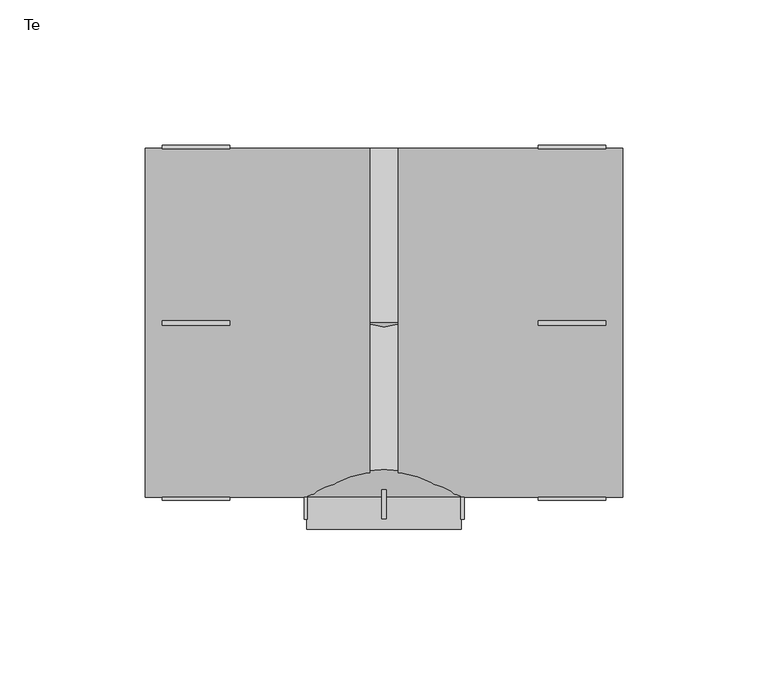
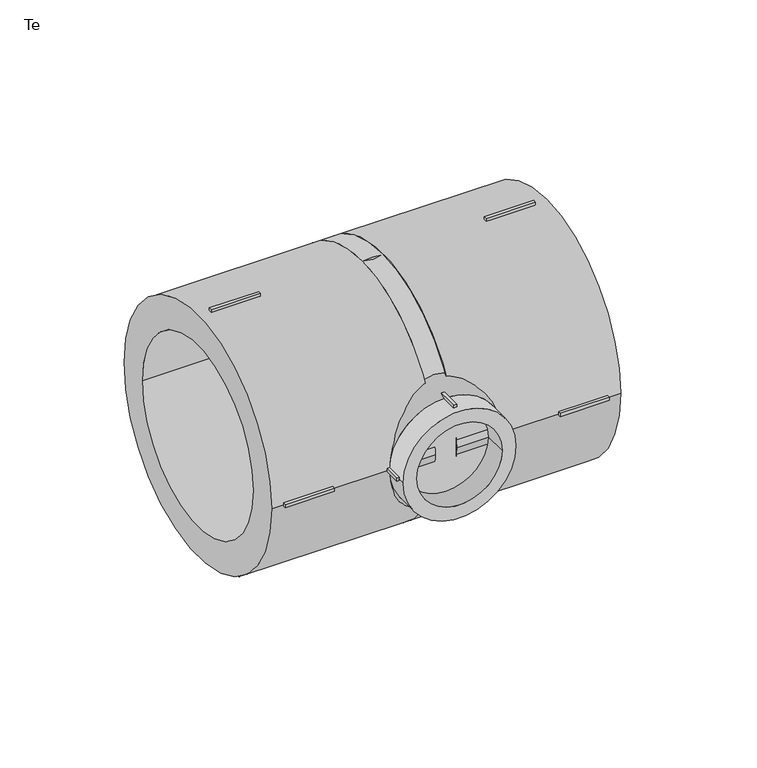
"""IFC4 building model written with IfcOpenShell, lengths in millimetres: pipe fitting geometry, EGB_VASEN_ PPR_Te WXR300_Te reducida WXR310 : Te."""

from ifc_helpers import new_model, si_unit, point, frame, origin, origin_2d, place, context, project, spatial, polyline, circle_curve, trimmed, segment, composite_curve, outline, extrude, source, transform, mapped, element, save
from ifc_brep_helpers import plane_surface, revolved_surface, advanced_brep


def te_8f591f91(model_context):
    return source(origin(), model_context, "Body", "SolidModel", [
        extrude(outline(polyline([(-0.75, -53.0), (0.75, -53.0), (0.75, -67.4), (-0.75, -67.4), (-0.75, -53.0)])), frame((0.0, 0.0, 25.5), z_axis=(0.0, 0.0, 1.0), x_axis=(1.0, 0.0, 0.0)), (0.0, 0.0, 1.0), 2.0),
        extrude(outline(polyline([(-0.75, -53.0), (0.75, -53.0), (0.75, -67.4), (-0.75, -67.4), (-0.75, -53.0)])), frame((0.0, 0.0, -27.5), z_axis=(0.0, 0.0, 1.0), x_axis=(1.0, 0.0, 0.0)), (0.0, 0.0, 1.0), 2.0),
        extrude(outline(polyline([(25.5, -53.0), (27.5, -53.0), (27.5, -67.4), (25.5, -67.4), (25.5, -53.0)])), frame((0.0, 0.0, -0.75), z_axis=(0.0, 0.0, 1.0), x_axis=(1.0, 0.0, 0.0)), (0.0, 0.0, 1.0), 1.5),
        extrude(outline(polyline([(-27.5, -53.0), (-25.5, -53.0), (-25.5, -67.4), (-27.5, -67.4), (-27.5, -53.0)])), frame((0.0, 0.0, -0.75), z_axis=(0.0, 0.0, 1.0), x_axis=(1.0, 0.0, 0.0)), (0.0, 0.0, 1.0), 1.5),
        extrude(outline(polyline([(53.0, -0.75), (53.0, 0.75), (76.2, 0.75), (76.2, -0.75), (53.0, -0.75)])), frame((0.0, 0.0, 59.0), z_axis=(0.0, 0.0, 1.0), x_axis=(1.0, 0.0, 0.0)), (0.0, 0.0, 1.0), 2.0),
        extrude(outline(polyline([(53.0, -0.75), (53.0, 0.75), (76.2, 0.75), (76.2, -0.75), (53.0, -0.75)])), frame((0.0, 0.0, -61.0), z_axis=(0.0, 0.0, 1.0), x_axis=(1.0, 0.0, 0.0)), (0.0, 0.0, 1.0), 2.0),
        extrude(outline(polyline([(53.0, 59.0), (53.0, 61.0), (76.2, 61.0), (76.2, 59.0), (53.0, 59.0)])), frame((0.0, 0.0, -0.75), z_axis=(0.0, 0.0, 1.0), x_axis=(1.0, 0.0, 0.0)), (0.0, 0.0, 1.0), 1.5),
        extrude(outline(polyline([(53.0, -61.0), (53.0, -59.0), (76.2, -59.0), (76.2, -61.0), (53.0, -61.0)])), frame((0.0, 0.0, -0.75), z_axis=(0.0, 0.0, 1.0), x_axis=(1.0, 0.0, 0.0)), (0.0, 0.0, 1.0), 1.5),
        extrude(outline(polyline([(-53.0, 0.75), (-53.0, -0.75), (-76.2, -0.75), (-76.2, 0.75), (-53.0, 0.75)])), frame((0.0, 0.0, 59.0), z_axis=(0.0, 0.0, 1.0), x_axis=(1.0, 0.0, 0.0)), (0.0, 0.0, 1.0), 2.0),
        extrude(outline(polyline([(-53.0, 0.75), (-53.0, -0.75), (-76.2, -0.75), (-76.2, 0.75), (-53.0, 0.75)])), frame((0.0, 0.0, -61.0), z_axis=(0.0, 0.0, 1.0), x_axis=(1.0, 0.0, 0.0)), (0.0, 0.0, 1.0), 2.0),
        extrude(outline(polyline([(-53.0, 61.0), (-53.0, 59.0), (-76.2, 59.0), (-76.2, 61.0), (-53.0, 61.0)])), frame((0.0, 0.0, -0.75), z_axis=(0.0, 0.0, 1.0), x_axis=(1.0, 0.0, 0.0)), (0.0, 0.0, 1.0), 1.5),
        extrude(outline(polyline([(-53.0, -59.0), (-53.0, -61.0), (-76.2, -61.0), (-76.2, -59.0), (-53.0, -59.0)])), frame((0.0, 0.0, -0.75), z_axis=(0.0, 0.0, 1.0), x_axis=(1.0, 0.0, 0.0)), (0.0, 0.0, 1.0), 1.5),
        extrude(outline(composite_curve([segment(trimmed(circle_curve(origin_2d(), 26.5), [point((0.0, 26.5))], [point((0.0, -26.5))], False, "CARTESIAN"), True, "CONTINUOUS"), segment(trimmed(circle_curve(origin_2d(), 26.5), [point((0.0, -26.5))], [point((0.0, 26.5))], False, "CARTESIAN"), True, "CONTINUOUS")], self_intersect=False), holes=[composite_curve([segment(trimmed(circle_curve(origin_2d(), 20.0), [point((0.0, 20.0))], [point((0.0, -20.0))], True, "CARTESIAN"), True, "CONTINUOUS"), segment(trimmed(circle_curve(origin_2d(), 20.0), [point((0.0, -20.0))], [point((0.0, 20.0))], True, "CARTESIAN"), True, "CONTINUOUS")], self_intersect=False)]), frame((0.0, -71.0, 0.0), z_axis=(0.0, 1.0, 0.0), x_axis=(0.0, 0.0, 1.0)), (0.0, 0.0, 1.0), 11.0),
        extrude(outline(composite_curve([segment(trimmed(circle_curve(origin_2d(), 60.0), [point((-60.0, 0.0))], [point((60.0, 0.0))], False, "CARTESIAN"), True, "CONTINUOUS"), segment(trimmed(circle_curve(origin_2d(), 60.0), [point((60.0, 0.0))], [point((-60.0, 0.0))], False, "CARTESIAN"), True, "CONTINUOUS")], self_intersect=False), holes=[composite_curve([segment(trimmed(circle_curve(origin_2d(), 45.0), [point((-45.0, 0.0))], [point((45.0, 0.0))], True, "CARTESIAN"), True, "CONTINUOUS"), segment(trimmed(circle_curve(origin_2d(), 45.0), [point((45.0, 0.0))], [point((-45.0, 0.0))], True, "CARTESIAN"), True, "CONTINUOUS")], self_intersect=False)]), frame((4.96, 0.0, 0.0), z_axis=(1.0, 0.0, 0.0), x_axis=(0.0, 1.0, 0.0)), (0.0, 0.0, 1.0), 77.04),
        extrude(outline(composite_curve([segment(trimmed(circle_curve(origin_2d(), 60.0), [point((-60.0, 0.0))], [point((60.0, 0.0))], False, "CARTESIAN"), True, "CONTINUOUS"), segment(trimmed(circle_curve(origin_2d(), 60.0), [point((60.0, 0.0))], [point((-60.0, 0.0))], False, "CARTESIAN"), True, "CONTINUOUS")], self_intersect=False), holes=[composite_curve([segment(trimmed(circle_curve(origin_2d(), 45.0), [point((-45.0, 0.0))], [point((45.0, 0.0))], True, "CARTESIAN"), True, "CONTINUOUS"), segment(trimmed(circle_curve(origin_2d(), 45.0), [point((45.0, 0.0))], [point((-45.0, 0.0))], True, "CARTESIAN"), True, "CONTINUOUS")], self_intersect=False)]), frame((-82.0, 0.0, 0.0), z_axis=(1.0, 0.0, 0.0), x_axis=(0.0, 1.0, 0.0)), (0.0, 0.0, 1.0), 77.04),
        advanced_brep(
        [(60.0, 0.0, 0.0), (-60.0, 0.0, 0.0), (26.5, -60.0, 0.0), (-26.5, -60.0, 0.0)],
        [
            (0, 1, circle_curve(frame((0.0, 0.0, 0.0), z_axis=(0.0, 1.0, 0.0), x_axis=(1.0, 0.0, 0.0)), 60.0)),
            (1, 0, circle_curve(frame((0.0, 0.0, 0.0), z_axis=(0.0, 1.0, 0.0), x_axis=(-1.0, 0.0, 0.0)), 60.0)),
            (2, 3, circle_curve(frame((0.0, -60.0, 0.0), z_axis=(0.0, -1.0, 0.0), x_axis=(-1.0, 0.0, 0.0)), 26.5)),
            (3, 2, circle_curve(frame((0.0, -60.0, 0.0), z_axis=(0.0, -1.0, 0.0), x_axis=(1.0, 0.0, 0.0)), 26.5)),
            (3, 1),
            (0, 2),
        ],
        [
            plane_surface(frame((0.0, 0.0, 0.0), z_axis=(0.0, 1.0, 0.0), x_axis=(0.0, 0.0, -1.0))),
            plane_surface(frame((0.0, -60.0, 0.0), z_axis=(0.0, -1.0, 0.0), x_axis=(0.0, 0.0, -1.0))),
            revolved_surface(polyline([(-26.50000001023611, -60.0, 0.0), (-60.0, 0.0, 0.0)]), (0.0, -107.4626866, 0.0), (0.0, 1.0, 0.0)),
            revolved_surface(polyline([(26.50000001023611, -60.0, 0.0), (60.0, 0.0, 0.0)]), (0.0, -107.4626866, 0.0), (0.0, 1.0, 0.0)),
        ],
        [
            (0, [[1, 2]]),
            (1, [[3, 4]]),
            (2, [[-4, 5, -1, 6]]),
            (3, [[-3, -6, -2, -5]]),
        ],
    ),
        extrude(outline(composite_curve([segment(trimmed(circle_curve(origin_2d(), 60.0), [point((-60.0, 0.0))], [point((60.0, 0.0))], False, "CARTESIAN"), True, "CONTINUOUS"), segment(trimmed(circle_curve(origin_2d(), 60.0), [point((60.0, 0.0))], [point((-60.0, 0.0))], False, "CARTESIAN"), True, "CONTINUOUS")], self_intersect=False)), frame((-4.96, 0.0, 0.0), z_axis=(1.0, 0.0, 0.0), x_axis=(0.0, 1.0, 0.0)), (0.0, 0.0, 1.0), 9.92),
    ])


if __name__ == "__main__":
    model = new_model("IFC4")
    model_context = context("Model", 3, world=origin())
    ifc_project = project(units=[si_unit("LENGTHUNIT", "METRE", prefix="MILLI")], contexts=[model_context])
    site = spatial("IfcSite", under=ifc_project)
    building = spatial("IfcBuilding", under=site)
    placement = place(None, origin())
    te_shape = te_8f591f91(model_context)
    element("IfcPipeFitting", 1, ObjectType="EGB_VASEN_ PPR_Te WXR300_Te reducida WXR310 : Te", at=placement, inside=building, context=model_context, shape_type="MappedRepresentation", body=[
        mapped(te_shape, transform((0.0, 0.0, 0.0), x_axis=(1.0, 0.0, 0.0), y_axis=(0.0, 1.0, 0.0), z_axis=(0.0, 0.0, 1.0))),
    ])
    save(model, "model.ifc")
